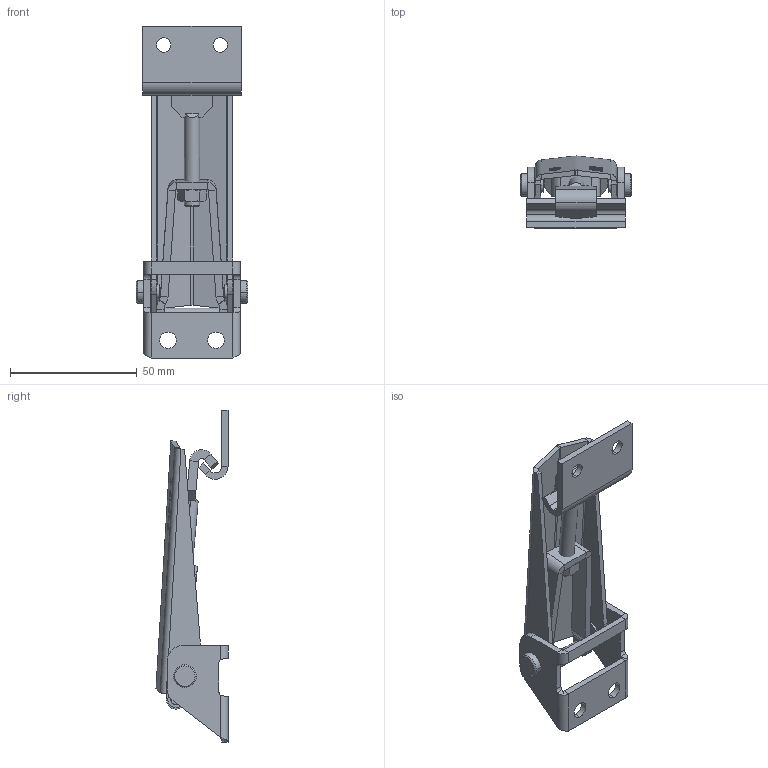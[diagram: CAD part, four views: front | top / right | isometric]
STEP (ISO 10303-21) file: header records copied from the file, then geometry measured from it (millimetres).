
FILE_DESCRIPTION (( 'STEP AP214' ), '1' );
FILE_NAME ('93303 Y.STEP', '2020-09-21T05:22:23', ( '' ), ( '' ), 'SwSTEP 2.0', 'SolidWorks 2020', '' );
FILE_SCHEMA (( 'AUTOMOTIVE_DESIGN' ));
Length unit declared in the file: millimetre
Products named in the file (7): M6 Somun; 93303 Y; 93303 hareket kolu; 93303 govde; 93303 karsýlýk kancasý; 93303_M6 kanca; 93303 kanca tutucu V
Assembly tree (6 placements, depth 2):
  93303 Y
    93303 govde
    93303 hareket kolu
    93303 kanca tutucu V
    93303 karsýlýk kancasý
    93303_M6 kanca
    M6 Somun
Bounding box: 44 x 28.45 x 131 mm (x, y, z)
Volume: 24288.1 mm3; surface area: 23678.5 mm2
Topology: 6 solids, 6 shells, 471 faces, 1180 edges, 742 vertices
Faces by surface type: plane 222, bspline 145, cylinder 90, cone 14
Entity records: 22878 total; most frequent: CARTESIAN_POINT 10019, ORIENTED_EDGE 2360, DIRECTION 1710, EDGE_CURVE 1180, VERTEX_POINT 742, VECTOR 676, LINE 676, AXIS2_PLACEMENT_3D 517
